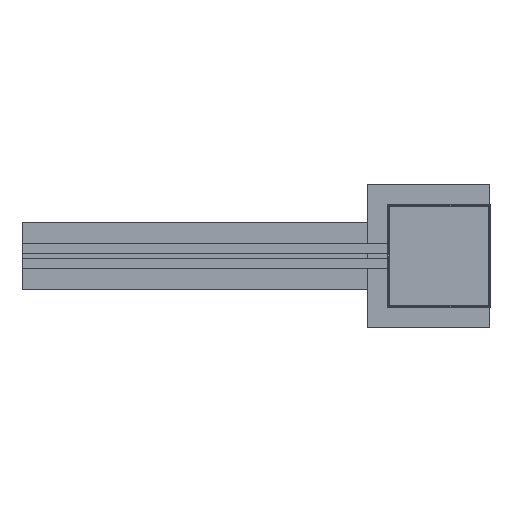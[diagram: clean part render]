
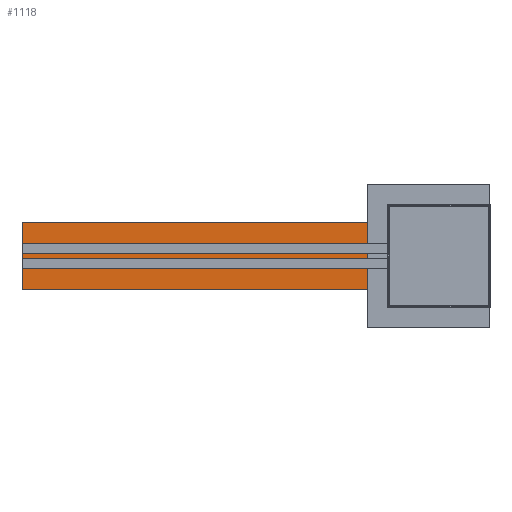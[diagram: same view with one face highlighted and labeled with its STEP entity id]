
A CAD part, top view. The second image highlights one B-rep face of the part: STEP entity #1118.
In plain terms, the highlighted planar face has unit normal (0, 0, 1).
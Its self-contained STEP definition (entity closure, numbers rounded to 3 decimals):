
#46=FACE_OUTER_BOUND('',#117,.T.);
#117=EDGE_LOOP('',(#758,#759,#760,#761,#762));
#185=LINE('',#1593,#334);
#189=LINE('',#1601,#338);
#192=LINE('',#1607,#341);
#195=LINE('',#1613,#344);
#198=LINE('',#1618,#347);
#334=VECTOR('',#1292,304.8);
#338=VECTOR('',#1298,304.8);
#341=VECTOR('',#1303,304.8);
#344=VECTOR('',#1308,304.8);
#347=VECTOR('',#1313,304.8);
#483=VERTEX_POINT('',#1591);
#484=VERTEX_POINT('',#1592);
#487=VERTEX_POINT('',#1600);
#489=VERTEX_POINT('',#1606);
#491=VERTEX_POINT('',#1612);
#585=EDGE_CURVE('',#483,#484,#185,.T.);
#589=EDGE_CURVE('',#484,#487,#189,.T.);
#592=EDGE_CURVE('',#489,#483,#192,.T.);
#595=EDGE_CURVE('',#491,#489,#195,.T.);
#598=EDGE_CURVE('',#487,#491,#198,.T.);
#758=ORIENTED_EDGE('',*,*,#598,.T.);
#759=ORIENTED_EDGE('',*,*,#595,.T.);
#760=ORIENTED_EDGE('',*,*,#592,.T.);
#761=ORIENTED_EDGE('',*,*,#585,.T.);
#762=ORIENTED_EDGE('',*,*,#589,.T.);
#1049=PLANE('',#1218);
#1118=ADVANCED_FACE('',(#46),#1049,.T.);
#1218=AXIS2_PLACEMENT_3D('',#1620,#1315,#1316);
#1292=DIRECTION('',(0.,1.,0.));
#1298=DIRECTION('',(0.,1.,0.));
#1303=DIRECTION('',(1.,0.,0.));
#1308=DIRECTION('',(0.,-1.,0.));
#1313=DIRECTION('',(-1.,0.,0.));
#1315=DIRECTION('center_axis',(0.,0.,1.));
#1316=DIRECTION('ref_axis',(-1.,0.,0.));
#1591=CARTESIAN_POINT('',(-172.5,-81.,-20.));
#1592=CARTESIAN_POINT('',(-172.5,31.,-20.));
#1593=CARTESIAN_POINT('',(-172.5,-81.,-20.));
#1600=CARTESIAN_POINT('',(-172.5,81.,-20.));
#1601=CARTESIAN_POINT('',(-172.5,31.,-20.));
#1606=CARTESIAN_POINT('',(-1000.,-81.,-20.));
#1607=CARTESIAN_POINT('',(-1000.,-81.,-20.));
#1612=CARTESIAN_POINT('',(-1000.,81.,-20.));
#1613=CARTESIAN_POINT('',(-1000.,81.,-20.));
#1618=CARTESIAN_POINT('',(-172.5,81.,-20.));
#1620=CARTESIAN_POINT('Origin',(-1000.,81.,-20.));
